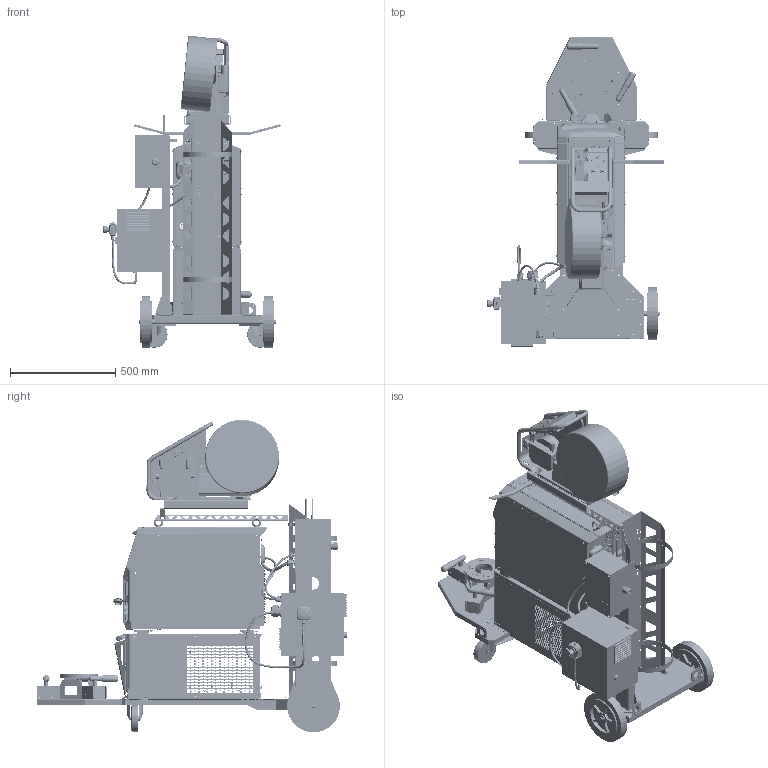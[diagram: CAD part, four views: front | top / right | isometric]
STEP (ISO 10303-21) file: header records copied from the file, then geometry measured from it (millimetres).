
FILE_DESCRIPTION (( 'STEP AP203' ), '1' );
FILE_NAME ('智能焊接工装站-移动焊接小车.STEP', '2024-11-07T06:47:28', ( '' ), ( '' ), 'SwSTEP 2.0', 'SolidWorks 2018', '' );
FILE_SCHEMA (( 'CONFIG_CONTROL_DESIGN' ));
Products named in the file (1): 智能焊接工装站-移动焊接小车
Bounding box: 840.75 x 1472 x 1481.69 mm (x, y, z)
Surface area: 10134719.8 mm2 (no closed solid volume)
Topology: 0 solids, 670 shells, 4653 faces, 29331 edges, 24392 vertices
Faces by surface type: plane 2163, cylinder 1739, bspline 493, cone 227, torus 19, sphere 12
Entity records: 429295 total; most frequent: CARTESIAN_POINT 218692, DIRECTION 38748, ORIENTED_EDGE 37100, EDGE_CURVE 29298, VERTEX_POINT 24392, LINE 14256, VECTOR 14256, AXIS2_PLACEMENT_3D 12246
